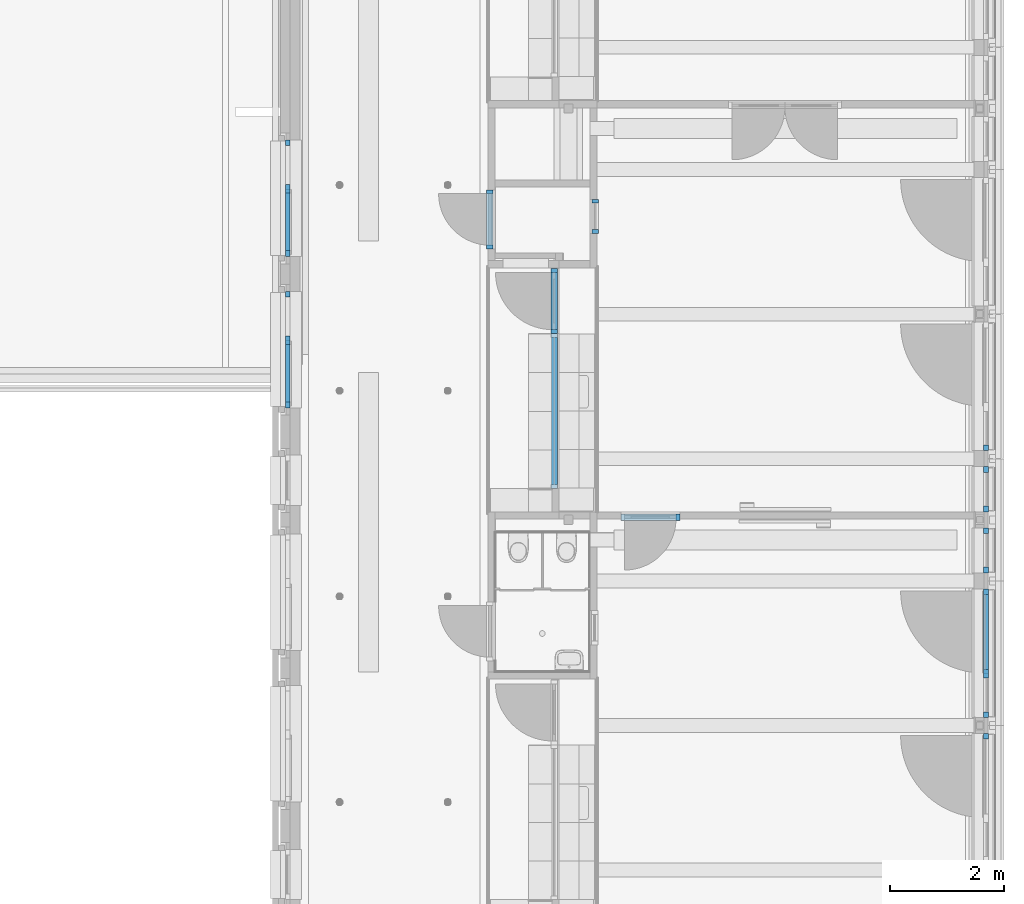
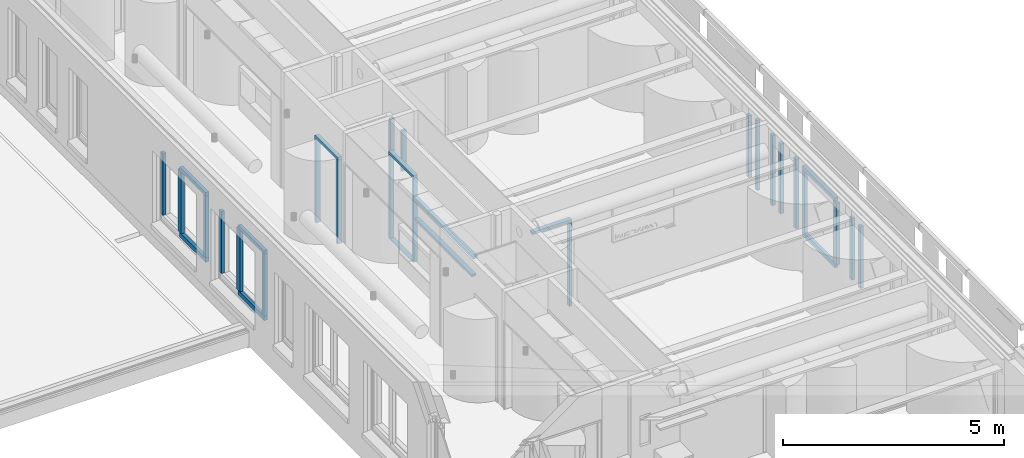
# One storey, part 8 of 128: 34 members, 12 elements without a shape of their own.
"""IFC2X3 building model written with IfcOpenShell, lengths in millimetres."""

from ifc_helpers import new_model, entity, si_unit, converted_unit, derived_unit, direction, frame, frame_2d, origin, origin_2d_with_axis, place, context, subcontext, project, spatial, rectangle, extrude, source, transform, mapped, material, type_object, type_shapes, element, aggregate, save


model = new_model("IFC2X3")

# Units and contexts
model_context = context("Model", 3, precision=0.01, world=origin(), true_north=direction((6.123031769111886e-17, 1.0)))
body_context = subcontext(model_context, "Body", "Model", "MODEL_VIEW")
ifc_project = project(units=[si_unit("LENGTHUNIT", "METRE", prefix="MILLI"), si_unit("AREAUNIT", "SQUARE_METRE"), si_unit("VOLUMEUNIT", "CUBIC_METRE"), converted_unit("PLANEANGLEUNIT", "DEGREE", entity("IfcRatioMeasure", 0.017453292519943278), si_unit("PLANEANGLEUNIT", "RADIAN"), dimensions=[0, 0, 0, 0, 0, 0, 0]), si_unit("MASSUNIT", "GRAM", prefix="KILO"), derived_unit("MASSDENSITYUNIT", [(si_unit("MASSUNIT", "GRAM", prefix="KILO"), 1), (si_unit("LENGTHUNIT", "METRE"), -3)]), derived_unit("IONCONCENTRATIONUNIT", [(si_unit("MASSUNIT", "GRAM", prefix="KILO"), 1), (si_unit("LENGTHUNIT", "METRE"), -3)]), derived_unit("MOMENTOFINERTIAUNIT", [(si_unit("LENGTHUNIT", "METRE"), 4)]), si_unit("TIMEUNIT", "SECOND"), si_unit("FREQUENCYUNIT", "HERTZ"), si_unit("THERMODYNAMICTEMPERATUREUNIT", "DEGREE_CELSIUS"), derived_unit("THERMALTRANSMITTANCEUNIT", [(si_unit("MASSUNIT", "GRAM", prefix="KILO"), 1), (si_unit("THERMODYNAMICTEMPERATUREUNIT", "KELVIN"), -1), (si_unit("TIMEUNIT", "SECOND"), -3)]), derived_unit("THERMALCONDUCTANCEUNIT", [(si_unit("MASSUNIT", "GRAM", prefix="KILO"), 1), (si_unit("THERMODYNAMICTEMPERATUREUNIT", "KELVIN"), -1), (si_unit("TIMEUNIT", "SECOND"), -3), (si_unit("LENGTHUNIT", "METRE"), 1)]), derived_unit("VOLUMETRICFLOWRATEUNIT", [(si_unit("LENGTHUNIT", "METRE"), 3), (si_unit("TIMEUNIT", "SECOND"), -1)]), derived_unit("MASSFLOWRATEUNIT", [(si_unit("MASSUNIT", "GRAM", prefix="KILO"), 1), (si_unit("TIMEUNIT", "SECOND"), -1)]), derived_unit("ROTATIONALFREQUENCYUNIT", [(si_unit("TIMEUNIT", "SECOND"), -1)]), si_unit("ELECTRICCURRENTUNIT", "AMPERE"), si_unit("ELECTRICVOLTAGEUNIT", "VOLT"), si_unit("POWERUNIT", "WATT"), si_unit("FORCEUNIT", "NEWTON", prefix="KILO"), si_unit("ILLUMINANCEUNIT", "LUX"), si_unit("LUMINOUSFLUXUNIT", "LUMEN"), si_unit("LUMINOUSINTENSITYUNIT", "CANDELA"), derived_unit("USERDEFINED", [(si_unit("MASSUNIT", "GRAM", prefix="KILO"), -1), (si_unit("LENGTHUNIT", "METRE"), -2), (si_unit("TIMEUNIT", "SECOND"), 3), (si_unit("LUMINOUSFLUXUNIT", "LUMEN"), 1)]), derived_unit("USERDEFINED", [(si_unit("MASSUNIT", "GRAM", prefix="KILO"), 1), (si_unit("TIMEUNIT", "SECOND"), -3), (si_unit("LENGTHUNIT", "METRE"), 3), (si_unit("ELECTRICCURRENTUNIT", "AMPERE"), -2)]), derived_unit("SOUNDPOWERUNIT", [(si_unit("MASSUNIT", "GRAM", prefix="KILO"), 1), (si_unit("TIMEUNIT", "SECOND"), -3), (si_unit("LENGTHUNIT", "METRE"), 2)]), derived_unit("SOUNDPRESSUREUNIT", [(si_unit("MASSUNIT", "GRAM", prefix="KILO"), 1), (si_unit("LENGTHUNIT", "METRE"), -1), (si_unit("TIMEUNIT", "SECOND"), -2)]), derived_unit("LINEARVELOCITYUNIT", [(si_unit("LENGTHUNIT", "METRE"), 1), (si_unit("TIMEUNIT", "SECOND"), -1)]), si_unit("PRESSUREUNIT", "PASCAL"), derived_unit("USERDEFINED", [(si_unit("MASSUNIT", "GRAM", prefix="KILO"), 1), (si_unit("LENGTHUNIT", "METRE"), -2), (si_unit("TIMEUNIT", "SECOND"), -2)]), derived_unit("LINEARFORCEUNIT", [(si_unit("MASSUNIT", "GRAM", prefix="KILO"), 1), (si_unit("TIMEUNIT", "SECOND"), -2)]), derived_unit("PLANARFORCEUNIT", [(si_unit("MASSUNIT", "GRAM", prefix="KILO"), 1), (si_unit("LENGTHUNIT", "METRE"), -1), (si_unit("TIMEUNIT", "SECOND"), -2)]), derived_unit("SPECIFICHEATCAPACITYUNIT", [(si_unit("THERMODYNAMICTEMPERATUREUNIT", "KELVIN"), -1), (si_unit("LENGTHUNIT", "METRE"), 2), (si_unit("TIMEUNIT", "SECOND"), -2)]), derived_unit("HEATINGVALUEUNIT", [(si_unit("LENGTHUNIT", "METRE"), 2), (si_unit("TIMEUNIT", "SECOND"), -2)]), derived_unit("VAPORPERMEABILITYUNIT", [(si_unit("LENGTHUNIT", "METRE"), -1), (si_unit("TIMEUNIT", "SECOND"), 1)]), derived_unit("DYNAMICVISCOSITYUNIT", [(si_unit("MASSUNIT", "GRAM", prefix="KILO"), 1), (si_unit("TIMEUNIT", "SECOND"), -1), (si_unit("LENGTHUNIT", "METRE"), -1)]), derived_unit("THERMALEXPANSIONCOEFFICIENTUNIT", [(si_unit("THERMODYNAMICTEMPERATUREUNIT", "KELVIN"), -1)]), derived_unit("MODULUSOFELASTICITYUNIT", [(si_unit("MASSUNIT", "GRAM", prefix="KILO"), 1), (si_unit("LENGTHUNIT", "METRE"), -1), (si_unit("TIMEUNIT", "SECOND"), -2)]), derived_unit("ISOTHERMALMOISTURECAPACITYUNIT", [(si_unit("LENGTHUNIT", "METRE"), 3), (si_unit("MASSUNIT", "GRAM", prefix="KILO"), -1)]), derived_unit("MOISTUREDIFFUSIVITYUNIT", [(si_unit("TIMEUNIT", "SECOND"), -1), (si_unit("LENGTHUNIT", "METRE"), 2)])], contexts=[model_context])

# Site, building, storey
site_placement = place(None, frame((0.0, 300.0, 0.0)))
site = spatial("IfcSite", under=ifc_project, at=site_placement, Name="<Kadastrale nummers>", CompositionType="ELEMENT")
building_placement = place(site_placement, origin())
building = spatial("IfcBuilding", under=site, at=building_placement, CompositionType="ELEMENT")
storey_placement = place(building_placement, frame((0.0, 0.0, 3560.0000331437)))
storey = spatial("IfcBuildingStorey", under=building, at=storey_placement, Name="01 eerste verdieping", CompositionType="ELEMENT", Elevation=3560.0000331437)

# Curtain wall, member
curtain_wall_type_1 = type_object("IfcCurtainWallType", Name="Curtain Wall:Merk H01", PredefinedType="NOTDEFINED")
curtain_wall_1_placement = place(storey_placement, frame((0.0, 0.0, -3560.0000331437)))
curtain_wall_1 = element("IfcCurtainWall", 1, at=curtain_wall_1_placement, inside=storey, type_object=curtain_wall_type_1, Name="Curtain Wall:Merk H01", ObjectType="Curtain Wall:Merk H01")
ifc_material_1 = material(Name="ISR_HPL")
member_type_1 = type_object("IfcMemberType", Name="Rectangular Mullion:31_CWM_067x114", PredefinedType="MULLION", material=ifc_material_1)
shared_shape_1 = source(origin(), body_context, "Body", "SweptSolid", [
    extrude(rectangle(XDim=113.99999999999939, YDim=67.0, at=origin_2d_with_axis()), frame((-33.5, -57.0, -1034.0), z_axis=(0.0, 0.0, 1.0), x_axis=(0.0, -1.0, 0.0)), (0.0, 0.0, 1.0), 1033.9999999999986),
])
type_shapes(member_type_1, [shared_shape_1])
member_1_placement = place(curtain_wall_1_placement, frame((40084.0, 22273.997246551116, 6040.0000331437), z_axis=(0.0, 1.0, 0.0), x_axis=(0.0, 0.0, 1.0)))
member_1 = element("IfcMember", 2, at=member_1_placement, type_object=member_type_1, material=ifc_material_1, Name="Rectangular Mullion:31_CWM_067x114", ObjectType="Rectangular Mullion:31_CWM_067x114", context=body_context, shape_type="MappedRepresentation", body=[
    mapped(shared_shape_1, transform((0.0, 0.0, 0.0), scale=1.0)),
])

curtain_wall_type_2 = type_object("IfcCurtainWallType", Name="Curtain Wall:Merk H16", PredefinedType="NOTDEFINED")
curtain_wall_2_placement = place(storey_placement, frame((0.0, 0.0, -3560.0000331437)))
curtain_wall_2 = element("IfcCurtainWall", 3, at=curtain_wall_2_placement, inside=storey, type_object=curtain_wall_type_2, Name="Curtain Wall:Merk H16", ObjectType="Curtain Wall:Merk H16")
member_2_placement = place(curtain_wall_2_placement, frame((42317.500000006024, 16603.998623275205, 6040.0000331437), z_axis=(-1.0, 0.0, 0.0), x_axis=(0.0, 0.0, 1.0)))
member_2 = element("IfcMember", 4, at=member_2_placement, type_object=member_type_1, material=ifc_material_1, Name="Rectangular Mullion:31_CWM_067x114", ObjectType="Rectangular Mullion:31_CWM_067x114", context=body_context, shape_type="MappedRepresentation", body=[
    mapped(shared_shape_1, transform((0.0, 0.0, 0.0), scale=1.0)),
])

# Member
member_type_2 = type_object("IfcMemberType", Name="Rectangular Mullion:31_CWM_067x114", PredefinedType="MULLION", material=ifc_material_1)
shared_shape_2 = source(origin(), body_context, "Body", "SweptSolid", [
    extrude(rectangle(XDim=113.99999999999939, YDim=67.0, at=origin_2d_with_axis()), frame((-33.5, -57.0, -2323.0), z_axis=(0.0, 0.0, 1.0), x_axis=(0.0, -1.0, 0.0)), (0.0, 0.0, 1.0), 2323.0),
])
type_shapes(member_type_2, [shared_shape_2])
member_3_placement = place(curtain_wall_1_placement, frame((40084.0, 22273.997246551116, 3650.00003501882), z_axis=(0.0, 0.0, -1.0), x_axis=(0.0, 1.0, 0.0)))
member_3 = element("IfcMember", 5, at=member_3_placement, type_object=member_type_2, material=ifc_material_1, Name="Rectangular Mullion:31_CWM_067x114", ObjectType="Rectangular Mullion:31_CWM_067x114", context=body_context, shape_type="MappedRepresentation", body=[
    mapped(shared_shape_2, transform((0.0, 0.0, 0.0), scale=1.0)),
])

# Curtain wall, member
curtain_wall_type_3 = type_object("IfcCurtainWallType", Name="Curtain Wall:Merk H09", PredefinedType="NOTDEFINED")
curtain_wall_3_placement = place(storey_placement, frame((0.0, 0.0, -3560.0000331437)))
curtain_wall_3 = element("IfcCurtainWall", 6, at=curtain_wall_3_placement, inside=storey, type_object=curtain_wall_type_3, Name="Curtain Wall:Merk H09", ObjectType="Curtain Wall:Merk H09")
member_4_placement = place(curtain_wall_3_placement, frame((41209.0, 20894.997246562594, 3650.00003501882), z_axis=(0.0, 0.0, -1.0), x_axis=(0.0, 1.0, 0.0)))
member_4 = element("IfcMember", 7, at=member_4_placement, type_object=member_type_2, material=ifc_material_1, Name="Rectangular Mullion:31_CWM_067x114", ObjectType="Rectangular Mullion:31_CWM_067x114", context=body_context, shape_type="MappedRepresentation", body=[
    mapped(shared_shape_2, transform((0.0, 0.0, 0.0), scale=1.0)),
])

# Member
member_type_3 = type_object("IfcMemberType", Name="Rectangular Mullion:31_CWM_067x114", PredefinedType="MULLION", material=ifc_material_1)
shared_shape_3 = source(origin(), body_context, "Body", "SweptSolid", [
    extrude(rectangle(XDim=113.9999999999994, YDim=67.0, at=frame_2d((1.0658141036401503e-14, 0.0), x_axis=(1.0, 0.0))), frame((-33.5, -57.0, -2323.0), z_axis=(0.0, 0.0, 1.0), x_axis=(0.0, -1.0, 0.0)), (0.0, 0.0, 1.0), 2323.0),
])
type_shapes(member_type_3, [shared_shape_3])
member_5_placement = place(curtain_wall_1_placement, frame((40084.0, 21239.997246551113, 5973.0000331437), z_axis=(0.0, 0.0, 1.0), x_axis=(0.0, -1.0, 0.0)))
member_5 = element("IfcMember", 8, at=member_5_placement, type_object=member_type_3, material=ifc_material_1, Name="Rectangular Mullion:31_CWM_067x114", ObjectType="Rectangular Mullion:31_CWM_067x114", context=body_context, shape_type="MappedRepresentation", body=[
    mapped(shared_shape_3, transform((0.0, 0.0, 0.0), scale=1.0)),
])

aggregate(curtain_wall_1, [member_1, member_3, member_5])

member_6_placement = place(curtain_wall_3_placement, frame((41209.0, 19760.997246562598, 5973.0000331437), z_axis=(0.0, 0.0, 1.0), x_axis=(0.0, -1.0, 0.0)))
member_6 = element("IfcMember", 9, at=member_6_placement, type_object=member_type_3, material=ifc_material_1, Name="Rectangular Mullion:31_CWM_067x114", ObjectType="Rectangular Mullion:31_CWM_067x114", context=body_context, shape_type="MappedRepresentation", body=[
    mapped(shared_shape_3, transform((0.0, 0.0, 0.0), scale=1.0)),
])

member_7_placement = place(curtain_wall_2_placement, frame((43351.50000000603, 16603.998623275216, 5973.0000331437)))
member_7 = element("IfcMember", 10, at=member_7_placement, type_object=member_type_3, material=ifc_material_1, Name="Rectangular Mullion:31_CWM_067x114", ObjectType="Rectangular Mullion:31_CWM_067x114", context=body_context, shape_type="MappedRepresentation", body=[
    mapped(shared_shape_3, transform((0.0, 0.0, 0.0), scale=1.0)),
])

aggregate(curtain_wall_2, [member_2, member_7])

# Curtain wall, members
curtain_wall_type_4 = type_object("IfcCurtainWallType", Name="Curtain Wall:Merk H08", PredefinedType="NOTDEFINED")
curtain_wall_4_placement = place(storey_placement, frame((0.0, 0.0, -3560.0000331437)))
curtain_wall_4 = element("IfcCurtainWall", 11, at=curtain_wall_4_placement, inside=storey, type_object=curtain_wall_type_4, Name="Curtain Wall:Merk H08", ObjectType="Curtain Wall:Merk H08")
member_type_4 = type_object("IfcMemberType", Name="Rectangular Mullion:31_CWM_067x114", PredefinedType="MULLION", material=ifc_material_1)
shared_shape_4 = source(origin(), body_context, "Body", "SweptSolid", [
    extrude(rectangle(XDim=113.99999999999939, YDim=67.0, at=origin_2d_with_axis()), frame((-33.5, -57.0, -2710.0), z_axis=(0.0, 0.0, 1.0), x_axis=(0.0, -1.0, 0.0)), (0.0, 0.0, 1.0), 2710.0000000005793),
])
type_shapes(member_type_4, [shared_shape_4])
member_8_placement = place(curtain_wall_4_placement, frame((41209.0, 19760.997246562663, 5450.0000331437), z_axis=(0.0, 1.0, 0.0), x_axis=(0.0, 0.0, 1.0)))
member_8 = element("IfcMember", 12, at=member_8_placement, type_object=member_type_4, material=ifc_material_1, Name="Rectangular Mullion:31_CWM_067x114", ObjectType="Rectangular Mullion:31_CWM_067x114", context=body_context, shape_type="MappedRepresentation", body=[
    mapped(shared_shape_4, transform((0.0, 0.0, 0.0), scale=1.0)),
])
member_type_5 = type_object("IfcMemberType", Name="Rectangular Mullion:31_CWM_067x114", PredefinedType="MULLION", material=ifc_material_1)
shared_shape_5 = source(origin(), body_context, "Body", "SweptSolid", [
    extrude(rectangle(XDim=113.99999999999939, YDim=67.0, at=origin_2d_with_axis()), frame((-33.5, -57.0, -2576.0), z_axis=(0.0, 0.0, 1.0), x_axis=(0.0, -1.0, 0.0)), (0.0, 0.0, 1.0), 2576.0000000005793),
])
type_shapes(member_type_5, [shared_shape_5])
member_9_placement = place(curtain_wall_4_placement, frame((41209.0, 17117.997246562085, 4850.0000331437), z_axis=(0.0, -1.0, 0.0), x_axis=(0.0, 0.0, -1.0)))
member_9 = element("IfcMember", 13, at=member_9_placement, type_object=member_type_5, material=ifc_material_1, Name="Rectangular Mullion:31_CWM_067x114", ObjectType="Rectangular Mullion:31_CWM_067x114", context=body_context, shape_type="MappedRepresentation", body=[
    mapped(shared_shape_5, transform((0.0, 0.0, 0.0), scale=1.0)),
])
aggregate(curtain_wall_4, [member_8, member_9])

# Member
member_type_6 = type_object("IfcMemberType", Name="Rectangular Mullion:31_CWM_067x114", PredefinedType="MULLION", material=ifc_material_1)
shared_shape_6 = source(origin(), body_context, "Body", "SweptSolid", [
    extrude(rectangle(XDim=113.99999999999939, YDim=67.0, at=origin_2d_with_axis()), frame((-33.5, -57.0, -1134.0), z_axis=(0.0, 0.0, 1.0), x_axis=(0.0, -1.0, 0.0)), (0.0, 0.0, 1.0), 1133.9999999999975),
])
type_shapes(member_type_6, [shared_shape_6])
member_10_placement = place(curtain_wall_3_placement, frame((41209.0, 20894.997246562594, 6040.0000331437), z_axis=(0.0, 1.0, 0.0), x_axis=(0.0, 0.0, 1.0)))
member_10 = element("IfcMember", 14, at=member_10_placement, type_object=member_type_6, material=ifc_material_1, Name="Rectangular Mullion:31_CWM_067x114", ObjectType="Rectangular Mullion:31_CWM_067x114", context=body_context, shape_type="MappedRepresentation", body=[
    mapped(shared_shape_6, transform((0.0, 0.0, 0.0), scale=1.0)),
])

ifc_material_2 = material(Name="ISR_Kunststof_grijs")
member_type_7 = type_object("IfcMemberType", Name="Rectangular Mullion:31_CWM_020x114", PredefinedType="MULLION", material=ifc_material_2)
shared_shape_7 = source(origin(), body_context, "Body", "SweptSolid", [
    extrude(rectangle(XDim=113.9999999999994, YDim=20.0, at=frame_2d((1.0658141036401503e-14, 0.0), x_axis=(1.0, 0.0))), frame((-10.0, -57.0, -1000.0), z_axis=(0.0, 0.0, 1.0), x_axis=(0.0, -1.0, 0.0)), (0.0, 0.0, 1.0), 999.999999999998),
])
type_shapes(member_type_7, [shared_shape_7])
member_11_placement = place(curtain_wall_3_placement, frame((41209.0, 19827.9972465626, 3650.00003501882), z_axis=(0.0, -1.0, 0.0), x_axis=(0.0, 0.0, -1.0)))
member_11 = element("IfcMember", 15, at=member_11_placement, type_object=member_type_7, material=ifc_material_2, Name="Rectangular Mullion:31_CWM_020x114", ObjectType="Rectangular Mullion:31_CWM_020x114", context=body_context, shape_type="MappedRepresentation", body=[
    mapped(shared_shape_7, transform((0.0, 0.0, 0.0), scale=1.0)),
])

aggregate(curtain_wall_3, [member_6, member_10, member_11, member_4])

# Curtain wall, members
curtain_wall_type_5 = type_object("IfcCurtainWallType", Name="Curtain Wall:Merk H05", PredefinedType="NOTDEFINED")
curtain_wall_5_placement = place(storey_placement, frame((0.0, 0.0, -3560.0000331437)))
curtain_wall_5 = element("IfcCurtainWall", 16, at=curtain_wall_5_placement, inside=storey, type_object=curtain_wall_type_5, Name="Curtain Wall:Merk H05", ObjectType="Curtain Wall:Merk H05")
member_type_8 = type_object("IfcMemberType", Name="Rectangular Mullion:31_CWM_067x114", PredefinedType="MULLION", material=ifc_material_1)
shared_shape_8 = source(origin(), body_context, "Body", "SweptSolid", [
    extrude(rectangle(XDim=113.99999999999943, YDim=67.0, at=origin_2d_with_axis()), frame((-33.5, 57.0, -1123.0), z_axis=(0.0, 0.0, 1.0), x_axis=(0.0, -1.0, 0.0)), (0.0, 0.0, 1.0), 1123.0000000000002),
])
type_shapes(member_type_8, [shared_shape_8])
member_12_placement = place(curtain_wall_5_placement, frame((41811.0, 22109.997246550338, 4850.0000331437), z_axis=(0.0, 0.0, -1.0), x_axis=(0.0, 1.0, 0.0)))
member_12 = element("IfcMember", 17, at=member_12_placement, type_object=member_type_8, material=ifc_material_1, Name="Rectangular Mullion:31_CWM_067x114", ObjectType="Rectangular Mullion:31_CWM_067x114", context=body_context, shape_type="MappedRepresentation", body=[
    mapped(shared_shape_8, transform((0.0, 0.0, 0.0), scale=1.0)),
])
member_type_9 = type_object("IfcMemberType", Name="Rectangular Mullion:31_CWM_067x114", PredefinedType="MULLION", material=ifc_material_1)
shared_shape_9 = source(origin(), body_context, "Body", "SweptSolid", [
    extrude(rectangle(XDim=113.99999999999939, YDim=67.0, at=origin_2d_with_axis()), frame((-33.5, 57.0, -1123.0), z_axis=(0.0, 0.0, 1.0), x_axis=(0.0, -1.0, 0.0)), (0.0, 0.0, 1.0), 1123.0000000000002),
])
type_shapes(member_type_9, [shared_shape_9])
member_13_placement = place(curtain_wall_5_placement, frame((41811.0, 21509.997246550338, 5973.0000331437), z_axis=(0.0, 0.0, 1.0), x_axis=(0.0, -1.0, 0.0)))
member_13 = element("IfcMember", 18, at=member_13_placement, type_object=member_type_9, material=ifc_material_1, Name="Rectangular Mullion:31_CWM_067x114", ObjectType="Rectangular Mullion:31_CWM_067x114", context=body_context, shape_type="MappedRepresentation", body=[
    mapped(shared_shape_9, transform((0.0, 0.0, 0.0), scale=1.0)),
])
aggregate(curtain_wall_5, [member_12, member_13])

# Curtain wall, member
curtain_wall_type_6 = type_object("IfcCurtainWallType", Name="Curtain Wall:K_29", PredefinedType="NOTDEFINED")
curtain_wall_6_placement = place(storey_placement, frame((0.0, 0.0, -3560.0000331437)))
curtain_wall_6 = element("IfcCurtainWall", 19, at=curtain_wall_6_placement, inside=storey, type_object=curtain_wall_type_6, Name="Curtain Wall:K_29", ObjectType="Curtain Wall:K_29")
ifc_material_3 = material(Name="ISR_Kunststof_RAL7006")
member_type_10 = type_object("IfcMemberType", Name="Rectangular Mullion:100x83 Gealan Kubus", PredefinedType="MULLION", material=ifc_material_3)
shared_shape_10 = source(origin(), body_context, "Body", "SweptSolid", [
    extrude(rectangle(XDim=83.0, YDim=100.0, at=origin_2d_with_axis()), frame((-50.0, 41.5, -1929.9999649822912), z_axis=(0.0, 0.0, 1.0), x_axis=(0.0, -1.0, 0.0)), (0.0, 0.0, 1.0), 1929.9999649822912),
])
type_shapes(member_type_10, [shared_shape_10])
member_14_placement = place(curtain_wall_6_placement, frame((48668.0, 17430.0, 4460.000035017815), z_axis=(0.0, 0.0, -1.0), x_axis=(0.0, 1.0, 0.0)))
member_14 = element("IfcMember", 20, at=member_14_placement, type_object=member_type_10, material=ifc_material_3, Name="Rectangular Mullion:100x83 Gealan Kubus", ObjectType="Rectangular Mullion:100x83 Gealan Kubus", context=body_context, shape_type="MappedRepresentation", body=[
    mapped(shared_shape_10, transform((0.0, 0.0, 0.0), scale=1.0)),
])

curtain_wall_7_placement = place(storey_placement, frame((0.0, 0.0, -3560.0000331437)))
curtain_wall_7 = element("IfcCurtainWall", 21, at=curtain_wall_7_placement, inside=storey, type_object=curtain_wall_type_6, Name="Curtain Wall:K_29", ObjectType="Curtain Wall:K_29")
member_15_placement = place(curtain_wall_7_placement, frame((48668.0, 16360.0, 4460.000035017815), z_axis=(0.0, 0.0, -1.0), x_axis=(0.0, 1.0, 0.0)))
member_15 = element("IfcMember", 22, at=member_15_placement, type_object=member_type_10, material=ifc_material_3, Name="Rectangular Mullion:100x83 Gealan Kubus", ObjectType="Rectangular Mullion:100x83 Gealan Kubus", context=body_context, shape_type="MappedRepresentation", body=[
    mapped(shared_shape_10, transform((0.0, 0.0, 0.0), scale=1.0)),
])

# Member
member_type_11 = type_object("IfcMemberType", Name="Rectangular Mullion:100x83 Gealan Kubus", PredefinedType="MULLION", material=ifc_material_3)
shared_shape_11 = source(origin(), body_context, "Body", "SweptSolid", [
    extrude(rectangle(XDim=83.0, YDim=100.0, at=origin_2d_with_axis()), frame((-50.0, 41.5, -1929.9999649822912), z_axis=(0.0, 0.0, 1.0), x_axis=(0.0, -1.0, 0.0)), (0.0, 0.0, 1.0), 1929.9999649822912),
])
type_shapes(member_type_11, [shared_shape_11])
member_16_placement = place(curtain_wall_6_placement, frame((48668.0, 16640.0, 6390.0), z_axis=(0.0, 0.0, 1.0), x_axis=(0.0, -1.0, 0.0)))
member_16 = element("IfcMember", 23, at=member_16_placement, type_object=member_type_11, material=ifc_material_3, Name="Rectangular Mullion:100x83 Gealan Kubus", ObjectType="Rectangular Mullion:100x83 Gealan Kubus", context=body_context, shape_type="MappedRepresentation", body=[
    mapped(shared_shape_11, transform((0.0, 0.0, 0.0), scale=1.0)),
])

aggregate(curtain_wall_6, [member_14, member_16])

member_17_placement = place(curtain_wall_7_placement, frame((48668.0, 15570.0, 6390.0), z_axis=(0.0, 0.0, 1.0), x_axis=(0.0, -1.0, 0.0)))
member_17 = element("IfcMember", 24, at=member_17_placement, type_object=member_type_11, material=ifc_material_3, Name="Rectangular Mullion:100x83 Gealan Kubus", ObjectType="Rectangular Mullion:100x83 Gealan Kubus", context=body_context, shape_type="MappedRepresentation", body=[
    mapped(shared_shape_11, transform((0.0, 0.0, 0.0), scale=1.0)),
])

aggregate(curtain_wall_7, [member_15, member_17])

# Curtain wall, members
curtain_wall_type_7 = type_object("IfcCurtainWallType", Name="Curtain Wall:K_22", PredefinedType="NOTDEFINED")
curtain_wall_8_placement = place(storey_placement, frame((0.0, 0.0, -3560.0000331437)))
curtain_wall_8 = element("IfcCurtainWall", 25, at=curtain_wall_8_placement, inside=storey, type_object=curtain_wall_type_7, Name="Curtain Wall:K_22", ObjectType="Curtain Wall:K_22")
member_type_12 = type_object("IfcMemberType", Name="Rectangular Mullion:100x83 Gealan Kubus", PredefinedType="MULLION", material=ifc_material_3)
shared_shape_12 = source(origin(), body_context, "Body", "SweptSolid", [
    extrude(rectangle(XDim=83.0, YDim=100.0, at=origin_2d_with_axis()), frame((-50.0, 41.5, -1483.0), z_axis=(0.0, 0.0, 1.0), x_axis=(0.0, -1.0, 0.0)), (0.0, 0.0, 1.0), 1483.0000000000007),
])
type_shapes(member_type_12, [shared_shape_12])
member_18_placement = place(curtain_wall_8_placement, frame((48668.0, 15290.0, 6390.0), z_axis=(0.0, 1.0, 0.0), x_axis=(0.0, 0.0, 1.0)))
member_18 = element("IfcMember", 26, at=member_18_placement, type_object=member_type_12, material=ifc_material_3, Name="Rectangular Mullion:100x83 Gealan Kubus", ObjectType="Rectangular Mullion:100x83 Gealan Kubus", context=body_context, shape_type="MappedRepresentation", body=[
    mapped(shared_shape_12, transform((0.0, 0.0, 0.0), scale=1.0)),
])
member_type_13 = type_object("IfcMemberType", Name="Rectangular Mullion:100x83 Gealan Kubus", PredefinedType="MULLION", material=ifc_material_3)
shared_shape_13 = source(origin(), body_context, "Body", "SweptSolid", [
    extrude(rectangle(XDim=82.99999999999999, YDim=100.0, at=origin_2d_with_axis()), frame((-50.0, 41.49999999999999, -1709.9999649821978), z_axis=(0.0, 0.0, 1.0), x_axis=(0.0, -1.0, 0.0)), (0.0, 0.0, 1.0), 1709.9999649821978),
])
type_shapes(member_type_13, [shared_shape_13])
member_19_placement = place(curtain_wall_8_placement, frame((48668.0, 15290.0, 4580.0000331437), z_axis=(0.0, 0.0, -1.0), x_axis=(0.0, 1.0, 0.0)))
member_19 = element("IfcMember", 27, at=member_19_placement, type_object=member_type_13, material=ifc_material_3, Name="Rectangular Mullion:100x83 Gealan Kubus", ObjectType="Rectangular Mullion:100x83 Gealan Kubus", context=body_context, shape_type="MappedRepresentation", body=[
    mapped(shared_shape_13, transform((0.0, 0.0, 0.0), scale=1.0)),
])

# Curtain wall, member
curtain_wall_9_placement = place(storey_placement, frame((0.0, 0.0, -3560.0000331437)))
curtain_wall_9 = element("IfcCurtainWall", 28, at=curtain_wall_9_placement, inside=storey, type_object=curtain_wall_type_7, Name="Curtain Wall:K_22", ObjectType="Curtain Wall:K_22")
member_20_placement = place(curtain_wall_9_placement, frame((48668.0, 12760.0, 4580.0000331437), z_axis=(0.0, 0.0, -1.0), x_axis=(0.0, 1.0, 0.0)))
member_20 = element("IfcMember", 29, at=member_20_placement, type_object=member_type_13, material=ifc_material_3, Name="Rectangular Mullion:100x83 Gealan Kubus", ObjectType="Rectangular Mullion:100x83 Gealan Kubus", context=body_context, shape_type="MappedRepresentation", body=[
    mapped(shared_shape_13, transform((0.0, 0.0, 0.0), scale=1.0)),
])
aggregate(curtain_wall_9, [member_20])

curtain_wall_type_8 = type_object("IfcCurtainWallType", Name="Curtain Wall:K_24", PredefinedType="NOTDEFINED")
curtain_wall_10_placement = place(storey_placement, frame((0.0, 0.0, -3560.0000331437)))
curtain_wall_10 = element("IfcCurtainWall", 30, at=curtain_wall_10_placement, inside=storey, type_object=curtain_wall_type_8, Name="Curtain Wall:K_24", ObjectType="Curtain Wall:K_24")
member_21_placement = place(curtain_wall_10_placement, frame((36531.99862327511, 18460.0, 4580.000035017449), z_axis=(0.0, 0.0, -1.0), x_axis=(0.0, -1.0, 0.0)))
member_21 = element("IfcMember", 31, at=member_21_placement, type_object=member_type_13, material=ifc_material_3, Name="Rectangular Mullion:100x83 Gealan Kubus", ObjectType="Rectangular Mullion:100x83 Gealan Kubus", context=body_context, shape_type="MappedRepresentation", body=[
    mapped(shared_shape_13, transform((0.0, 0.0, 0.0), scale=1.0)),
])

curtain_wall_11_placement = place(storey_placement, frame((0.0, 0.0, -3560.0000331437)))
curtain_wall_11 = element("IfcCurtainWall", 32, at=curtain_wall_11_placement, inside=storey, type_object=curtain_wall_type_8, Name="Curtain Wall:K_24", ObjectType="Curtain Wall:K_24")
member_22_placement = place(curtain_wall_11_placement, frame((36531.99862327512, 21110.0, 4580.000035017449), z_axis=(0.0, 0.0, -1.0), x_axis=(0.0, -1.0, 0.0)))
member_22 = element("IfcMember", 33, at=member_22_placement, type_object=member_type_13, material=ifc_material_3, Name="Rectangular Mullion:100x83 Gealan Kubus", ObjectType="Rectangular Mullion:100x83 Gealan Kubus", context=body_context, shape_type="MappedRepresentation", body=[
    mapped(shared_shape_13, transform((0.0, 0.0, 0.0), scale=1.0)),
])

curtain_wall_12_placement = place(storey_placement, frame((0.0, 0.0, -3560.0000331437)))
curtain_wall_12 = element("IfcCurtainWall", 34, at=curtain_wall_12_placement, inside=storey, type_object=curtain_wall_type_7, Name="Curtain Wall:K_22", ObjectType="Curtain Wall:K_22")
member_type_14 = type_object("IfcMemberType", Name="Rectangular Mullion:100x83 Gealan Kubus", PredefinedType="MULLION", material=ifc_material_3)
shared_shape_14 = source(origin(), body_context, "Body", "SweptSolid", [
    extrude(rectangle(XDim=83.00000000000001, YDim=100.0, at=origin_2d_with_axis()), frame((-50.0, 41.50000000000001, -1709.9999649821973), z_axis=(0.0, 0.0, 1.0), x_axis=(0.0, -1.0, 0.0)), (0.0, 0.0, 1.0), 1709.9999649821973),
])
type_shapes(member_type_14, [shared_shape_14])
member_23_placement = place(curtain_wall_12_placement, frame((48668.0, 17710.0, 6290.0), z_axis=(0.0, 0.0, 1.0), x_axis=(0.0, -1.0, 0.0)))
member_23 = element("IfcMember", 35, at=member_23_placement, type_object=member_type_14, material=ifc_material_3, Name="Rectangular Mullion:100x83 Gealan Kubus", ObjectType="Rectangular Mullion:100x83 Gealan Kubus", context=body_context, shape_type="MappedRepresentation", body=[
    mapped(shared_shape_14, transform((0.0, 0.0, 0.0), scale=1.0)),
])
aggregate(curtain_wall_12, [member_23])

# Member
member_24_placement = place(curtain_wall_8_placement, frame((48668.0, 13040.0, 6290.0), z_axis=(0.0, 0.0, 1.0), x_axis=(0.0, -1.0, 0.0)))
member_24 = element("IfcMember", 36, at=member_24_placement, type_object=member_type_14, material=ifc_material_3, Name="Rectangular Mullion:100x83 Gealan Kubus", ObjectType="Rectangular Mullion:100x83 Gealan Kubus", context=body_context, shape_type="MappedRepresentation", body=[
    mapped(shared_shape_14, transform((0.0, 0.0, 0.0), scale=1.0)),
])

member_25_placement = place(curtain_wall_10_placement, frame((36531.99862327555, 20500.0, 6290.000035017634), z_axis=(0.0, 0.0, 1.0), x_axis=(0.0, 1.0, 0.0)))
member_25 = element("IfcMember", 37, at=member_25_placement, type_object=member_type_14, material=ifc_material_3, Name="Rectangular Mullion:100x83 Gealan Kubus", ObjectType="Rectangular Mullion:100x83 Gealan Kubus", context=body_context, shape_type="MappedRepresentation", body=[
    mapped(shared_shape_14, transform((0.0, 0.0, 0.0), scale=1.0)),
])

member_26_placement = place(curtain_wall_11_placement, frame((36531.998623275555, 23150.0, 6290.000035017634), z_axis=(0.0, 0.0, 1.0), x_axis=(0.0, 1.0, 0.0)))
member_26 = element("IfcMember", 38, at=member_26_placement, type_object=member_type_14, material=ifc_material_3, Name="Rectangular Mullion:100x83 Gealan Kubus", ObjectType="Rectangular Mullion:100x83 Gealan Kubus", context=body_context, shape_type="MappedRepresentation", body=[
    mapped(shared_shape_14, transform((0.0, 0.0, 0.0), scale=1.0)),
])

member_type_15 = type_object("IfcMemberType", Name="Rectangular Mullion:120x83 Gealan Kubus", PredefinedType="MULLION", material=ifc_material_3)
shared_shape_15 = source(origin(), body_context, "Body", "SweptSolid", [
    extrude(rectangle(XDim=83.00000000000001, YDim=120.0, at=origin_2d_with_axis()), frame((-60.0, 41.50000000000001, -1483.0), z_axis=(0.0, 0.0, 1.0), x_axis=(0.0, -1.0, 0.0)), (0.0, 0.0, 1.0), 1483.0000000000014),
])
type_shapes(member_type_15, [shared_shape_15])
member_27_placement = place(curtain_wall_8_placement, frame((48668.0, 13807.0, 4460.000035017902), z_axis=(0.0, -1.0, 0.0), x_axis=(0.0, 0.0, -1.0)))
member_27 = element("IfcMember", 39, at=member_27_placement, type_object=member_type_15, material=ifc_material_3, Name="Rectangular Mullion:120x83 Gealan Kubus", ObjectType="Rectangular Mullion:120x83 Gealan Kubus", context=body_context, shape_type="MappedRepresentation", body=[
    mapped(shared_shape_15, transform((0.0, 0.0, 0.0), scale=1.0)),
])

member_type_16 = type_object("IfcMemberType", Name="Rectangular Mullion:154x83 Gealan Kubus", PredefinedType="MULLION", material=ifc_material_3)
shared_shape_16 = source(origin(), body_context, "Body", "SweptSolid", [
    extrude(rectangle(XDim=83.00000000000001, YDim=154.0, at=origin_2d_with_axis()), frame((0.0, 41.50000000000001, -1710.0), z_axis=(0.0, 0.0, 1.0), x_axis=(0.0, -1.0, 0.0)), (0.0, 0.0, 1.0), 1710.0000000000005),
])
type_shapes(member_type_16, [shared_shape_16])
member_28_placement = place(curtain_wall_8_placement, frame((48668.0, 13807.0, 4580.0000331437), z_axis=(0.0, 0.0, -1.0), x_axis=(0.0, 1.0, 0.0)))
member_28 = element("IfcMember", 40, at=member_28_placement, type_object=member_type_16, material=ifc_material_3, Name="Rectangular Mullion:154x83 Gealan Kubus", ObjectType="Rectangular Mullion:154x83 Gealan Kubus", context=body_context, shape_type="MappedRepresentation", body=[
    mapped(shared_shape_16, transform((0.0, 0.0, 0.0), scale=1.0)),
])

aggregate(curtain_wall_8, [member_18, member_19, member_24, member_27, member_28])

member_29_placement = place(curtain_wall_10_placement, frame((36531.998623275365, 19643.0, 4580.000035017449), z_axis=(0.0, 0.0, -1.0), x_axis=(0.0, -1.0, 0.0)))
member_29 = element("IfcMember", 41, at=member_29_placement, type_object=member_type_16, material=ifc_material_3, Name="Rectangular Mullion:154x83 Gealan Kubus", ObjectType="Rectangular Mullion:154x83 Gealan Kubus", context=body_context, shape_type="MappedRepresentation", body=[
    mapped(shared_shape_16, transform((0.0, 0.0, 0.0), scale=1.0)),
])

member_30_placement = place(curtain_wall_11_placement, frame((36531.99862327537, 22293.0, 4580.000035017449), z_axis=(0.0, 0.0, -1.0), x_axis=(0.0, -1.0, 0.0)))
member_30 = element("IfcMember", 42, at=member_30_placement, type_object=member_type_16, material=ifc_material_3, Name="Rectangular Mullion:154x83 Gealan Kubus", ObjectType="Rectangular Mullion:154x83 Gealan Kubus", context=body_context, shape_type="MappedRepresentation", body=[
    mapped(shared_shape_16, transform((0.0, 0.0, 0.0), scale=1.0)),
])

member_type_17 = type_object("IfcMemberType", Name="Rectangular Mullion:100x83 Gealan Kubus", PredefinedType="MULLION", material=ifc_material_3)
shared_shape_17 = source(origin(), body_context, "Body", "SweptSolid", [
    extrude(rectangle(XDim=83.0, YDim=100.0, at=origin_2d_with_axis()), frame((-50.0, 41.5, -1183.0), z_axis=(0.0, 0.0, 1.0), x_axis=(0.0, -1.0, 0.0)), (0.0, 0.0, 1.0), 1183.0000000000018),
])
type_shapes(member_type_17, [shared_shape_17])
member_31_placement = place(curtain_wall_10_placement, frame((36531.99862327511, 18460.0, 6390.000035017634), z_axis=(0.0, -1.0, 0.0), x_axis=(0.0, 0.0, 1.0)))
member_31 = element("IfcMember", 43, at=member_31_placement, type_object=member_type_17, material=ifc_material_3, Name="Rectangular Mullion:100x83 Gealan Kubus", ObjectType="Rectangular Mullion:100x83 Gealan Kubus", context=body_context, shape_type="MappedRepresentation", body=[
    mapped(shared_shape_17, transform((0.0, 0.0, 0.0), scale=1.0)),
])

member_32_placement = place(curtain_wall_11_placement, frame((36531.99862327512, 21110.0, 6390.000035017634), z_axis=(0.0, -1.0, 0.0), x_axis=(0.0, 0.0, 1.0)))
member_32 = element("IfcMember", 44, at=member_32_placement, type_object=member_type_17, material=ifc_material_3, Name="Rectangular Mullion:100x83 Gealan Kubus", ObjectType="Rectangular Mullion:100x83 Gealan Kubus", context=body_context, shape_type="MappedRepresentation", body=[
    mapped(shared_shape_17, transform((0.0, 0.0, 0.0), scale=1.0)),
])

member_type_18 = type_object("IfcMemberType", Name="Rectangular Mullion:120x83 Gealan Kubus", PredefinedType="MULLION", material=ifc_material_3)
shared_shape_18 = source(origin(), body_context, "Body", "SweptSolid", [
    extrude(rectangle(XDim=83.00000000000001, YDim=120.0, at=origin_2d_with_axis()), frame((-60.0, 41.50000000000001, -1183.0), z_axis=(0.0, 0.0, 1.0), x_axis=(0.0, -1.0, 0.0)), (0.0, 0.0, 1.0), 1183.0000000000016),
])
type_shapes(member_type_18, [shared_shape_18])
member_33_placement = place(curtain_wall_10_placement, frame((36531.998623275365, 19643.0, 4460.000035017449), z_axis=(0.0, 1.0, 0.0), x_axis=(0.0, 0.0, -1.0)))
member_33 = element("IfcMember", 45, at=member_33_placement, type_object=member_type_18, material=ifc_material_3, Name="Rectangular Mullion:120x83 Gealan Kubus", ObjectType="Rectangular Mullion:120x83 Gealan Kubus", context=body_context, shape_type="MappedRepresentation", body=[
    mapped(shared_shape_18, transform((0.0, 0.0, 0.0), scale=1.0)),
])

aggregate(curtain_wall_10, [member_31, member_21, member_25, member_33, member_29])

member_34_placement = place(curtain_wall_11_placement, frame((36531.99862327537, 22293.0, 4460.000035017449), z_axis=(0.0, 1.0, 0.0), x_axis=(0.0, 0.0, -1.0)))
member_34 = element("IfcMember", 46, at=member_34_placement, type_object=member_type_18, material=ifc_material_3, Name="Rectangular Mullion:120x83 Gealan Kubus", ObjectType="Rectangular Mullion:120x83 Gealan Kubus", context=body_context, shape_type="MappedRepresentation", body=[
    mapped(shared_shape_18, transform((0.0, 0.0, 0.0), scale=1.0)),
])

aggregate(curtain_wall_11, [member_32, member_22, member_26, member_34, member_30])

save(model, "model.ifc")
